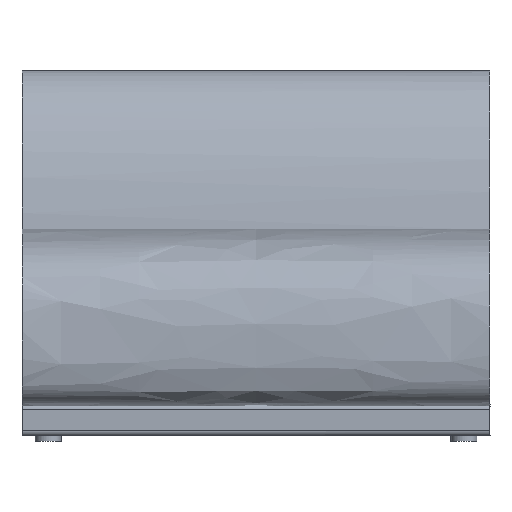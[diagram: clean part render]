
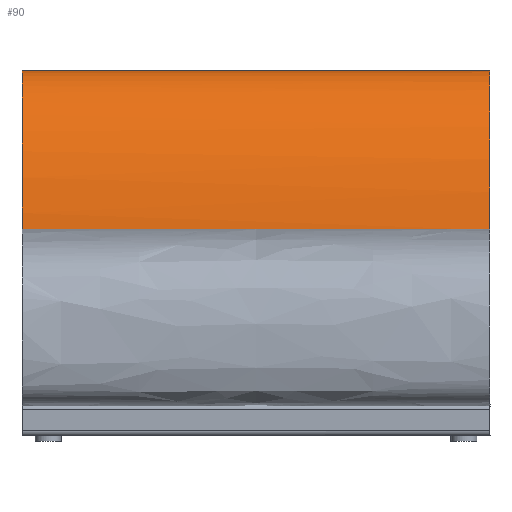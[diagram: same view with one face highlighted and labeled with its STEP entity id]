
A CAD part, front view. The second image highlights one B-rep face of the part: STEP entity #90.
In plain terms, the highlighted free-form (B-spline) face has degree [3, 1] with [13, 2] control points.
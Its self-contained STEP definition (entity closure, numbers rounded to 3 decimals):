
#11=B_SPLINE_SURFACE_WITH_KNOTS('',3,1,((#846,#847),(#848,#849),(#850,#851),
(#852,#853),(#854,#855),(#856,#857),(#858,#859),(#860,#861),(#862,#863),
(#864,#865),(#866,#867),(#868,#869),(#870,#871)),.UNSPECIFIED.,.F.,.F.,
 .F.,(4,3,3,3,4),(2,2),(-472.566,-354.425,-236.283,
-118.142,0.),(0.,700.),.UNSPECIFIED.);
#31=B_SPLINE_CURVE_WITH_KNOTS('',3,(#904,#905,#906,#907,#908,#909,#910,
#911,#912,#913,#914,#915,#916),.UNSPECIFIED.,.F.,.F.,(4,3,3,3,4),(-472.566,
-354.425,-236.283,-118.142,0.),.UNSPECIFIED.);
#32=B_SPLINE_CURVE_WITH_KNOTS('',1,(#917,#918),.UNSPECIFIED.,.F.,.F.,(2,
2),(0.,700.),.UNSPECIFIED.);
#33=B_SPLINE_CURVE_WITH_KNOTS('',1,(#919,#920),.UNSPECIFIED.,.F.,.F.,(2,
2),(0.,700.),.UNSPECIFIED.);
#35=B_SPLINE_CURVE_WITH_KNOTS('',3,(#934,#935,#936,#937,#938,#939,#940,
#941,#942,#943,#944,#945,#946),.UNSPECIFIED.,.F.,.F.,(4,3,3,3,4),(0.,118.142,
236.283,354.425,472.566),.UNSPECIFIED.);
#90=ADVANCED_FACE('',(#126),#11,.T.);
#126=FACE_OUTER_BOUND('',#162,.T.);
#162=EDGE_LOOP('',(#268,#269,#270,#271));
#268=ORIENTED_EDGE('',*,*,#356,.T.);
#269=ORIENTED_EDGE('',*,*,#354,.F.);
#270=ORIENTED_EDGE('',*,*,#352,.T.);
#271=ORIENTED_EDGE('',*,*,#353,.T.);
#352=EDGE_CURVE('',#434,#435,#31,.T.);
#353=EDGE_CURVE('',#435,#436,#32,.T.);
#354=EDGE_CURVE('',#434,#437,#33,.T.);
#356=EDGE_CURVE('',#436,#437,#35,.T.);
#434=VERTEX_POINT('',#900);
#435=VERTEX_POINT('',#901);
#436=VERTEX_POINT('',#902);
#437=VERTEX_POINT('',#903);
#846=CARTESIAN_POINT('',(-15820.74,-88.91,133.299));
#847=CARTESIAN_POINT('',(-16720.74,-88.91,133.299));
#848=CARTESIAN_POINT('',(-15820.74,-195.853,199.287));
#849=CARTESIAN_POINT('',(-16720.74,-195.853,199.287));
#850=CARTESIAN_POINT('',(-15820.74,-221.878,259.634));
#851=CARTESIAN_POINT('',(-16720.74,-221.878,259.634));
#852=CARTESIAN_POINT('',(-15820.74,-234.348,304.541));
#853=CARTESIAN_POINT('',(-16720.74,-234.348,304.541));
#854=CARTESIAN_POINT('',(-15820.74,-246.819,349.449));
#855=CARTESIAN_POINT('',(-16720.74,-246.819,349.449));
#856=CARTESIAN_POINT('',(-15820.74,-245.736,378.916));
#857=CARTESIAN_POINT('',(-16720.74,-245.736,378.916));
#858=CARTESIAN_POINT('',(-15820.74,-238.259,427.518));
#859=CARTESIAN_POINT('',(-16720.74,-238.259,427.518));
#860=CARTESIAN_POINT('',(-15820.74,-230.783,476.119));
#861=CARTESIAN_POINT('',(-16720.74,-230.783,476.119));
#862=CARTESIAN_POINT('',(-15820.74,-216.915,543.854));
#863=CARTESIAN_POINT('',(-16720.74,-216.915,543.854));
#864=CARTESIAN_POINT('',(-15820.74,-183.264,606.159));
#865=CARTESIAN_POINT('',(-16720.74,-183.264,606.159));
#866=CARTESIAN_POINT('',(-15820.74,-149.614,668.465));
#867=CARTESIAN_POINT('',(-16720.74,-149.614,668.465));
#868=CARTESIAN_POINT('',(-15820.74,-96.182,725.341));
#869=CARTESIAN_POINT('',(-16720.74,-96.182,725.341));
#870=CARTESIAN_POINT('',(-15820.74,-23.611,711.087));
#871=CARTESIAN_POINT('',(-16720.74,-23.611,711.087));
#900=CARTESIAN_POINT('',(-15820.74,-88.91,133.299));
#901=CARTESIAN_POINT('',(-15820.74,-23.611,711.087));
#902=CARTESIAN_POINT('',(-16720.74,-23.611,711.087));
#903=CARTESIAN_POINT('',(-16720.74,-88.91,133.299));
#904=CARTESIAN_POINT('',(-15820.74,-88.91,133.299));
#905=CARTESIAN_POINT('',(-15820.74,-195.853,199.287));
#906=CARTESIAN_POINT('',(-15820.74,-221.878,259.634));
#907=CARTESIAN_POINT('',(-15820.74,-234.348,304.541));
#908=CARTESIAN_POINT('',(-15820.74,-246.819,349.449));
#909=CARTESIAN_POINT('',(-15820.74,-245.736,378.916));
#910=CARTESIAN_POINT('',(-15820.74,-238.259,427.518));
#911=CARTESIAN_POINT('',(-15820.74,-230.783,476.119));
#912=CARTESIAN_POINT('',(-15820.74,-216.915,543.854));
#913=CARTESIAN_POINT('',(-15820.74,-183.264,606.159));
#914=CARTESIAN_POINT('',(-15820.74,-149.614,668.465));
#915=CARTESIAN_POINT('',(-15820.74,-96.182,725.341));
#916=CARTESIAN_POINT('',(-15820.74,-23.611,711.087));
#917=CARTESIAN_POINT('',(-15820.74,-23.611,711.087));
#918=CARTESIAN_POINT('',(-16720.74,-23.611,711.087));
#919=CARTESIAN_POINT('',(-15820.74,-88.91,133.299));
#920=CARTESIAN_POINT('',(-16720.74,-88.91,133.299));
#934=CARTESIAN_POINT('',(-16720.74,-23.611,711.087));
#935=CARTESIAN_POINT('',(-16720.74,-96.182,725.341));
#936=CARTESIAN_POINT('',(-16720.74,-149.614,668.465));
#937=CARTESIAN_POINT('',(-16720.74,-183.264,606.159));
#938=CARTESIAN_POINT('',(-16720.74,-216.915,543.854));
#939=CARTESIAN_POINT('',(-16720.74,-230.783,476.119));
#940=CARTESIAN_POINT('',(-16720.74,-238.259,427.518));
#941=CARTESIAN_POINT('',(-16720.74,-245.736,378.916));
#942=CARTESIAN_POINT('',(-16720.74,-246.819,349.449));
#943=CARTESIAN_POINT('',(-16720.74,-234.348,304.541));
#944=CARTESIAN_POINT('',(-16720.74,-221.878,259.634));
#945=CARTESIAN_POINT('',(-16720.74,-195.853,199.287));
#946=CARTESIAN_POINT('',(-16720.74,-88.91,133.299));
